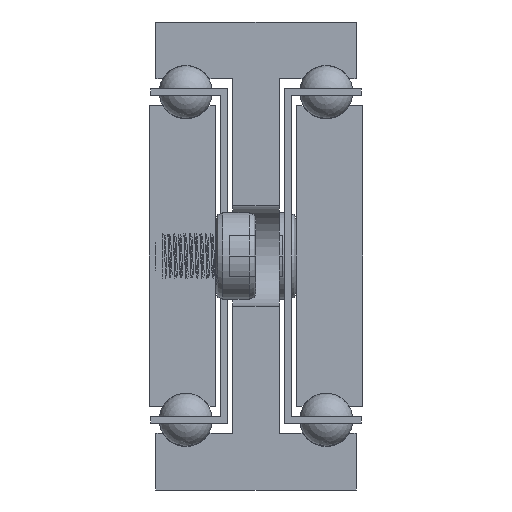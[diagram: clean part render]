
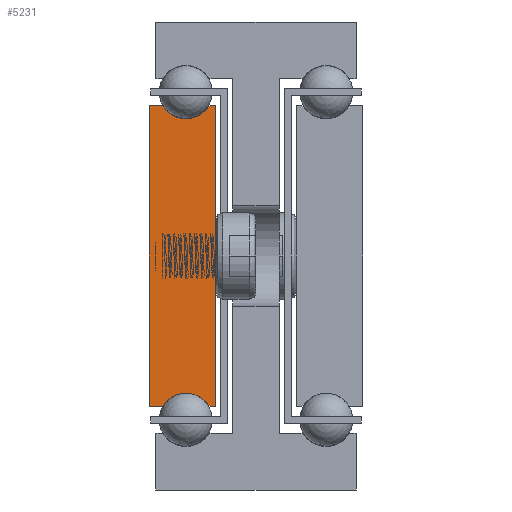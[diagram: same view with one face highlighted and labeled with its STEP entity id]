
A CAD part, front view. The second image highlights one B-rep face of the part: STEP entity #5231.
In plain terms, the highlighted planar face has unit normal (0, -1, 0).
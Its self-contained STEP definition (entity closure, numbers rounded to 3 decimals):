
#377=CIRCLE('',#5624,4.);
#379=CIRCLE('',#5630,4.);
#625=FACE_OUTER_BOUND('',#975,.T.);
#975=EDGE_LOOP('',(#3850,#3851,#3852,#3853,#3854,#3855,#3856,#3857));
#1444=LINE('',#7716,#1944);
#1447=LINE('',#7722,#1947);
#1451=LINE('',#7734,#1951);
#1454=LINE('',#7740,#1954);
#1457=LINE('',#7746,#1957);
#1461=LINE('',#7756,#1961);
#1944=VECTOR('',#6254,1.);
#1947=VECTOR('',#6259,1.);
#1951=VECTOR('',#6271,1.);
#1954=VECTOR('',#6276,1.);
#1957=VECTOR('',#6281,1.);
#1961=VECTOR('',#6293,1.);
#2452=VERTEX_POINT('',#7713);
#2453=VERTEX_POINT('',#7715);
#2455=VERTEX_POINT('',#7721);
#2457=VERTEX_POINT('',#7727);
#2459=VERTEX_POINT('',#7733);
#2461=VERTEX_POINT('',#7739);
#2463=VERTEX_POINT('',#7745);
#2465=VERTEX_POINT('',#7751);
#3014=EDGE_CURVE('',#2453,#2452,#1444,.T.);
#3017=EDGE_CURVE('',#2455,#2453,#1447,.T.);
#3020=EDGE_CURVE('',#2457,#2455,#377,.T.);
#3023=EDGE_CURVE('',#2459,#2457,#1451,.T.);
#3026=EDGE_CURVE('',#2461,#2459,#1454,.T.);
#3029=EDGE_CURVE('',#2463,#2461,#1457,.T.);
#3032=EDGE_CURVE('',#2465,#2463,#379,.T.);
#3035=EDGE_CURVE('',#2452,#2465,#1461,.T.);
#3850=ORIENTED_EDGE('',*,*,#3035,.T.);
#3851=ORIENTED_EDGE('',*,*,#3032,.T.);
#3852=ORIENTED_EDGE('',*,*,#3029,.T.);
#3853=ORIENTED_EDGE('',*,*,#3026,.T.);
#3854=ORIENTED_EDGE('',*,*,#3023,.T.);
#3855=ORIENTED_EDGE('',*,*,#3020,.T.);
#3856=ORIENTED_EDGE('',*,*,#3017,.T.);
#3857=ORIENTED_EDGE('',*,*,#3014,.T.);
#5005=PLANE('',#5633);
#5231=ADVANCED_FACE('',(#625),#5005,.T.);
#5624=AXIS2_PLACEMENT_3D('',#7728,#6265,#6266);
#5630=AXIS2_PLACEMENT_3D('',#7752,#6287,#6288);
#5633=AXIS2_PLACEMENT_3D('',#7758,#6296,#6297);
#6254=DIRECTION('',(0.,0.,-1.));
#6259=DIRECTION('',(-1.,0.,0.));
#6265=DIRECTION('center_axis',(0.,1.,0.));
#6266=DIRECTION('ref_axis',(-0.866,0.,-0.5));
#6271=DIRECTION('',(-1.,0.,0.));
#6276=DIRECTION('',(0.,0.,1.));
#6281=DIRECTION('',(1.,0.,0.));
#6287=DIRECTION('center_axis',(0.,1.,0.));
#6288=DIRECTION('ref_axis',(0.866,0.,0.5));
#6293=DIRECTION('',(1.,0.,0.));
#6296=DIRECTION('center_axis',(0.,-1.,0.));
#6297=DIRECTION('ref_axis',(1.,0.,0.));
#7713=CARTESIAN_POINT('',(-529.151,-1092.766,252.5));
#7715=CARTESIAN_POINT('',(-529.151,-1092.766,297.5));
#7716=CARTESIAN_POINT('',(-529.151,-1092.766,252.5));
#7721=CARTESIAN_POINT('',(-527.115,-1092.766,297.5));
#7722=CARTESIAN_POINT('',(-529.151,-1092.766,297.5));
#7727=CARTESIAN_POINT('',(-520.187,-1092.766,297.5));
#7728=CARTESIAN_POINT('Origin',(-523.651,-1092.766,299.5));
#7733=CARTESIAN_POINT('',(-519.151,-1092.766,297.5));
#7734=CARTESIAN_POINT('',(-520.187,-1092.766,297.5));
#7739=CARTESIAN_POINT('',(-519.151,-1092.766,252.5));
#7740=CARTESIAN_POINT('',(-519.151,-1092.766,297.5));
#7745=CARTESIAN_POINT('',(-520.187,-1092.766,252.5));
#7746=CARTESIAN_POINT('',(-519.151,-1092.766,252.5));
#7751=CARTESIAN_POINT('',(-527.115,-1092.766,252.5));
#7752=CARTESIAN_POINT('Origin',(-523.651,-1092.766,250.5));
#7756=CARTESIAN_POINT('',(-527.115,-1092.766,252.5));
#7758=CARTESIAN_POINT('Origin',(-524.157,-1092.766,275.));
